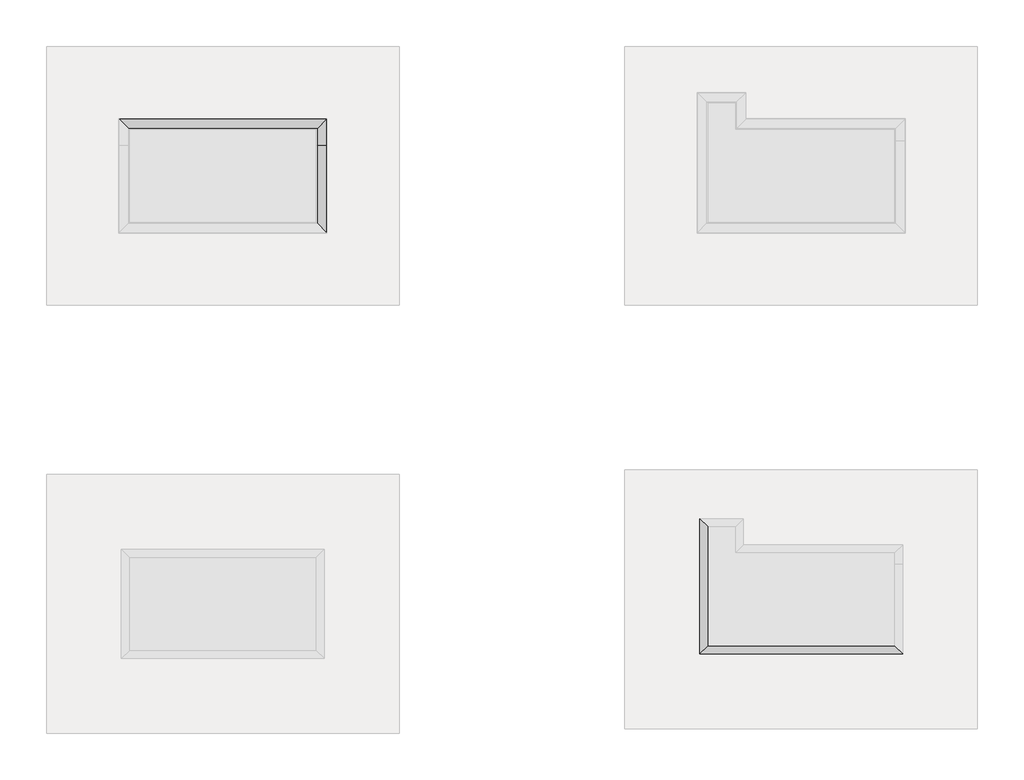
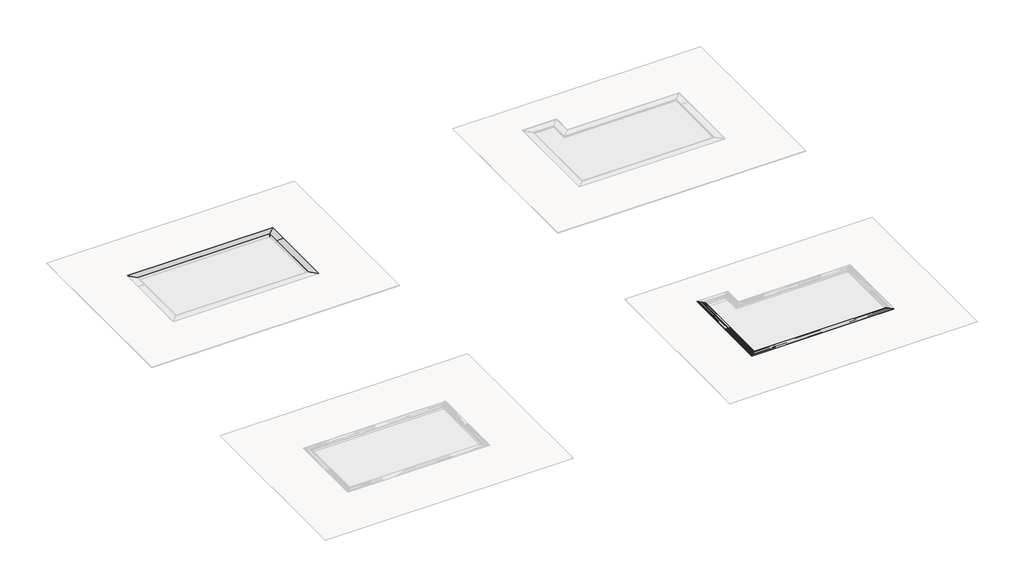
# One storey, part 5 of 8: 15 proxies.
"""IFC4 building model written with IfcOpenShell, lengths in millimetres."""

from ifc_helpers import new_model, si_unit, frame, origin, place, context, project, spatial, polyline, circle_curve, faceted_brep, transform, mapped, element, save
from ifc_brep_helpers import plane_surface, cylinder_surface, revolved_surface, advanced_brep
from components import generic_models_b0f7cce5, generic_models_9fc1b6fc, generic_models_75372383, generic_models_188eaae2, generic_models_80b3ed26, generic_models_b073b66c, generic_models_fa50347c, generic_models_227ff7f2

model = new_model("IFC4")

# Units and contexts
model_context = context("Model", 3, world=origin())
ifc_project = project(units=[si_unit("LENGTHUNIT", "METRE", prefix="MILLI")], contexts=[model_context])

# Site, building, storey
site = spatial("IfcSite", under=ifc_project)
building = spatial("IfcBuilding", under=site)
storey = spatial("IfcBuildingStorey", under=building, Name="EXAGRES_Serie YOHO_Piscinas_ejemplo", Elevation=0.0)

# Proxies
placement = place(None, origin())
element("IfcBuildingElementProxy", 1, Name="Wall Sweeps", at=placement, inside=storey, context=model_context, shape_type="Brep", body=[
    faceted_brep([(-13244.8495187, -3881.1586753, -200.0), (-13044.8495187, -4081.1586753, -200.0), (-12844.8495187, -4281.1586753, -200.0), (-12844.8495187, -4281.1586753, 0.0), (-13244.8495187, -3881.1586753, 0.0), (-4394.8495187, -3881.1586753, -200.0), (-4394.8495187, -3881.1586753, 0.0), (-4794.8495187, -4281.1586753, 0.0), (-4794.8495187, -4281.1586753, -200.0), (-4594.8495187, -4081.1586753, -200.0)], [[[0, 1, 2, 3, 4]], [[5, 6, 7, 8, 9]], [[3, 2, 8, 7]], [[2, 1, 0, 5, 9, 8]], [[4, 3, 7, 6]], [[0, 4, 6, 5]]]),
])
element("IfcBuildingElementProxy", 2, Name="Wall Sweeps", at=placement, inside=storey, context=model_context, shape_type="Brep", body=[
    faceted_brep([(-4394.8495187, -3881.1586753, -200.0), (-4594.8495187, -4081.1586753, -200.0), (-4794.8495187, -4281.1586753, -200.0), (-4794.8495187, -4281.1586753, 0.0), (-4394.8495187, -3881.1586753, 0.0), (-4394.8495187, -5006.1586753, -200.0), (-4394.8495187, -5006.1586753, 0.0), (-4794.8495187, -5006.1586753, 0.0), (-4794.8495187, -5006.1586753, -200.0), (-4594.8495187, -5006.1586753, -200.0)], [[[0, 1, 2, 3, 4]], [[5, 6, 7, 8, 9]], [[3, 2, 8, 7]], [[2, 1, 0, 5, 9, 8]], [[4, 3, 7, 6]], [[0, 4, 6, 5]]]),
])
element("IfcBuildingElementProxy", 3, Name="Wall Sweeps", at=placement, inside=storey, context=model_context, shape_type="Brep", body=[
    faceted_brep([(-4394.8495187, -5006.1586753, -200.0), (-4594.8495187, -5006.1586753, -200.0), (-4794.8495187, -5006.1586753, -200.0), (-4794.8495187, -5006.1586753, 0.0), (-4394.8495187, -5006.1586753, 0.0), (-4394.8495187, -8731.1586753, -200.0), (-4394.8495187, -8731.1586753, 0.0), (-4794.8495187, -8331.1586753, 0.0), (-4794.8495187, -8331.1586753, -200.0), (-4594.8495187, -8531.1586753, -200.0)], [[[0, 1, 2, 3, 4]], [[5, 6, 7, 8, 9]], [[2, 1, 0, 5, 9, 8]], [[3, 2, 8, 7]], [[4, 3, 7, 6]], [[0, 4, 6, 5]]]),
])
element("IfcBuildingElementProxy", 4, Name="Wall Sweeps", at=placement, inside=storey, context=model_context, shape_type="Brep", body=[
    faceted_brep([(19893.1504813, -26419.1586753, 0.0), (19880.1504813, -26406.1586753, 0.0), (19880.1504813, -26406.1586753, 33.0), (20210.1504813, -26736.1586753, 33.0), (20210.1504813, -26736.1586753, 21.0), (20204.1504813, -26730.1586753, 21.0), (20204.1504813, -26730.1586753, 22.0), (20200.1504813, -26726.1586753, 22.0), (20200.1504813, -26726.1586753, 21.0), (20194.1504813, -26720.1586753, 21.0), (20194.1504813, -26720.1586753, 22.0), (20190.1504813, -26716.1586753, 22.0), (20190.1504813, -26716.1586753, 21.0), (20184.1504813, -26710.1586753, 21.0), (20184.1504813, -26710.1586753, 22.0), (20180.1504813, -26706.1586753, 22.0), (20180.1504813, -26706.1586753, 21.0), (20174.1504813, -26700.1586753, 21.0), (20174.1504813, -26700.1586753, 22.0), (20170.1504813, -26696.1586753, 22.0), (20170.1504813, -26696.1586753, 21.0), (20164.1504813, -26690.1586753, 21.0), (20164.1504813, -26690.1586753, 22.0), (20160.1504813, -26686.1586753, 22.0), (20160.1504813, -26686.1586753, 21.0), (20154.1504813, -26680.1586753, 21.0), (20154.1504813, -26680.1586753, 22.0), (20150.1504813, -26676.1586753, 22.0), (20150.1504813, -26676.1586753, 21.0), (20144.1504813, -26670.1586753, 21.0), (20144.1504813, -26670.1586753, 22.0), (20140.1504813, -26666.1586753, 22.0), (20140.1504813, -26666.1586753, 21.0), (20134.1504813, -26660.1586753, 21.0), (20134.1504813, -26660.1586753, 22.0), (20130.1504813, -26656.1586753, 22.0), (20130.1504813, -26656.1586753, 21.0), (20124.1504813, -26650.1586753, 21.0), (20124.1504813, -26650.1586753, 22.0), (20120.1504813, -26646.1586753, 22.0), (20120.1504813, -26646.1586753, 21.0), (20114.1504813, -26640.1586753, 21.0), (20114.1504813, -26640.1586753, 22.0), (20110.1504813, -26636.1586753, 22.0), (20110.1504813, -26636.1586753, 21.0), (20104.1504813, -26630.1586753, 21.0), (20104.1504813, -26630.1586753, 22.0), (20100.1504813, -26626.1586753, 22.0), (20100.1504813, -26626.1586753, 21.0), (20094.1504813, -26620.1586753, 21.0), (20094.1504813, -26620.1586753, 22.0), (20090.1504813, -26616.1586753, 22.0), (20090.1504813, -26616.1586753, 21.0), (20084.1504813, -26610.1586753, 21.0), (20084.1504813, -26610.1586753, 22.0), (20080.1504813, -26606.1586753, 22.0), (20080.1504813, -26606.1586753, 21.0), (20074.1504813, -26600.1586753, 21.0), (20074.1504813, -26600.1586753, 22.0), (20070.1504813, -26596.1586753, 22.0), (20070.1504813, -26596.1586753, 21.0), (20064.1504813, -26590.1586753, 21.0), (20064.1504813, -26590.1586753, 22.0), (20060.1504813, -26586.1586753, 22.0), (20060.1504813, -26586.1586753, 21.0), (20054.1504813, -26580.1586753, 21.0), (20054.1504813, -26580.1586753, 22.0), (20050.1504813, -26576.1586753, 22.0), (20050.1504813, -26576.1586753, 21.0), (20044.1504813, -26570.1586753, 21.0), (20044.1504813, -26570.1586753, 22.0), (20040.1504813, -26566.1586753, 22.0), (20040.1504813, -26566.1586753, 21.0), (20034.1504813, -26560.1586753, 21.0), (20034.1504813, -26560.1586753, 22.0), (20030.1504813, -26556.1586753, 22.0), (20030.1504813, -26556.1586753, 21.0), (20024.1504813, -26550.1586753, 21.0), (20024.1504813, -26550.1586753, 22.0), (20020.1504813, -26546.1586753, 22.0), (20020.1504813, -26546.1586753, 21.0), (20014.1504813, -26540.1586753, 21.0), (20014.1504813, -26540.1586753, 22.0), (20010.1504813, -26536.1586753, 22.0), (20010.1504813, -26536.1586753, 21.0), (20004.1504813, -26530.1586753, 21.0), (20004.1504813, -26530.1586753, 22.0), (20000.1504813, -26526.1586753, 22.0), (20000.1504813, -26526.1586753, 21.0), (19994.1504813, -26520.1586753, 21.0), (19994.1504813, -26520.1586753, 22.0), (19990.1504813, -26516.1586753, 22.0), (19990.1504813, -26516.1586753, 21.0), (19984.1504813, -26510.1586753, 21.0), (19984.1504813, -26510.1586753, 22.0), (19980.1504813, -26506.1586753, 22.0), (19980.1504813, -26506.1586753, 21.0), (19974.1504813, -26500.1586753, 21.0), (19974.1504813, -26500.1586753, 22.0), (19970.1504813, -26496.1586753, 22.0), (19970.1504813, -26496.1586753, 21.0), (19964.1504813, -26490.1586753, 21.0), (19964.1504813, -26490.1586753, 22.0), (19960.1504813, -26486.1586753, 22.0), (19960.1504813, -26486.1586753, 21.0), (19954.1504813, -26480.1586753, 21.0), (19954.1504813, -26480.1586753, 22.0), (19950.1504813, -26476.1586753, 22.0), (19950.1504813, -26476.1586753, 21.0), (19944.1504813, -26470.1586753, 21.0), (19944.1504813, -26470.1586753, 22.0), (19940.1504813, -26466.1586753, 22.0), (19940.1504813, -26466.1586753, 21.0), (19934.1504813, -26460.1586753, 21.0), (19934.1504813, -26460.1586753, 22.0), (19930.1504813, -26456.1586753, 22.0), (19930.1504813, -26456.1586753, 21.0), (19924.1504813, -26450.1586753, 21.0), (19924.1504813, -26450.1586753, 22.0), (19920.1504813, -26446.1586753, 22.0), (19920.1504813, -26446.1586753, 21.0), (19914.1504813, -26440.1586753, 21.0), (19914.1504813, -26440.1586753, 22.0), (19910.1504813, -26436.1586753, 22.0), (19910.1504813, -26436.1586753, 21.0), (19904.1504813, -26430.1586753, 21.0), (19904.1504813, -26430.1586753, 22.0), (19900.1504813, -26426.1586753, 22.0), (19900.1504813, -26426.1586753, 21.0), (19893.1504813, -26419.1586753, 21.0), (19893.1504813, -26419.1586753, 14.0), (19892.1504813, -26418.1586753, 14.0), (19892.1504813, -26418.1586753, 8.0), (19893.1504813, -26419.1586753, 8.0), (11867.1504813, -26419.1586753, 0.0), (11867.1504813, -26419.1586753, 8.0), (11868.1504813, -26418.1586753, 8.0), (11868.1504813, -26418.1586753, 14.0), (11867.1504813, -26419.1586753, 14.0), (11867.1504813, -26419.1586753, 21.0), (11860.1504813, -26426.1586753, 21.0), (11860.1504813, -26426.1586753, 22.0), (11856.1504813, -26430.1586753, 22.0), (11856.1504813, -26430.1586753, 21.0), (11850.1504813, -26436.1586753, 21.0), (11850.1504813, -26436.1586753, 22.0), (11846.1504813, -26440.1586753, 22.0), (11846.1504813, -26440.1586753, 21.0), (11840.1504813, -26446.1586753, 21.0), (11840.1504813, -26446.1586753, 22.0), (11836.1504813, -26450.1586753, 22.0), (11836.1504813, -26450.1586753, 21.0), (11830.1504813, -26456.1586753, 21.0), (11830.1504813, -26456.1586753, 22.0), (11826.1504813, -26460.1586753, 22.0), (11826.1504813, -26460.1586753, 21.0), (11820.1504813, -26466.1586753, 21.0), (11820.1504813, -26466.1586753, 22.0), (11816.1504813, -26470.1586753, 22.0), (11816.1504813, -26470.1586753, 21.0), (11810.1504813, -26476.1586753, 21.0), (11810.1504813, -26476.1586753, 22.0), (11806.1504813, -26480.1586753, 22.0), (11806.1504813, -26480.1586753, 21.0), (11800.1504813, -26486.1586753, 21.0), (11800.1504813, -26486.1586753, 22.0), (11796.1504813, -26490.1586753, 22.0), (11796.1504813, -26490.1586753, 21.0), (11790.1504813, -26496.1586753, 21.0), (11790.1504813, -26496.1586753, 22.0), (11786.1504813, -26500.1586753, 22.0), (11786.1504813, -26500.1586753, 21.0), (11780.1504813, -26506.1586753, 21.0), (11780.1504813, -26506.1586753, 22.0), (11776.1504813, -26510.1586753, 22.0), (11776.1504813, -26510.1586753, 21.0), (11770.1504813, -26516.1586753, 21.0), (11770.1504813, -26516.1586753, 22.0), (11766.1504813, -26520.1586753, 22.0), (11766.1504813, -26520.1586753, 21.0), (11760.1504813, -26526.1586753, 21.0), (11760.1504813, -26526.1586753, 22.0), (11756.1504813, -26530.1586753, 22.0), (11756.1504813, -26530.1586753, 21.0), (11750.1504813, -26536.1586753, 21.0), (11750.1504813, -26536.1586753, 22.0), (11746.1504813, -26540.1586753, 22.0), (11746.1504813, -26540.1586753, 21.0), (11740.1504813, -26546.1586753, 21.0), (11740.1504813, -26546.1586753, 22.0), (11736.1504813, -26550.1586753, 22.0), (11736.1504813, -26550.1586753, 21.0), (11730.1504813, -26556.1586753, 21.0), (11730.1504813, -26556.1586753, 22.0), (11726.1504813, -26560.1586753, 22.0), (11726.1504813, -26560.1586753, 21.0), (11720.1504813, -26566.1586753, 21.0), (11720.1504813, -26566.1586753, 22.0), (11716.1504813, -26570.1586753, 22.0), (11716.1504813, -26570.1586753, 21.0), (11710.1504813, -26576.1586753, 21.0), (11710.1504813, -26576.1586753, 22.0), (11706.1504813, -26580.1586753, 22.0), (11706.1504813, -26580.1586753, 21.0), (11700.1504813, -26586.1586753, 21.0), (11700.1504813, -26586.1586753, 22.0), (11696.1504813, -26590.1586753, 22.0), (11696.1504813, -26590.1586753, 21.0), (11690.1504813, -26596.1586753, 21.0), (11690.1504813, -26596.1586753, 22.0), (11686.1504813, -26600.1586753, 22.0), (11686.1504813, -26600.1586753, 21.0), (11680.1504813, -26606.1586753, 21.0), (11680.1504813, -26606.1586753, 22.0), (11676.1504813, -26610.1586753, 22.0), (11676.1504813, -26610.1586753, 21.0), (11670.1504813, -26616.1586753, 21.0), (11670.1504813, -26616.1586753, 22.0), (11666.1504813, -26620.1586753, 22.0), (11666.1504813, -26620.1586753, 21.0), (11660.1504813, -26626.1586753, 21.0), (11660.1504813, -26626.1586753, 22.0), (11656.1504813, -26630.1586753, 22.0), (11656.1504813, -26630.1586753, 21.0), (11650.1504813, -26636.1586753, 21.0), (11650.1504813, -26636.1586753, 22.0), (11646.1504813, -26640.1586753, 22.0), (11646.1504813, -26640.1586753, 21.0), (11640.1504813, -26646.1586753, 21.0), (11640.1504813, -26646.1586753, 22.0), (11636.1504813, -26650.1586753, 22.0), (11636.1504813, -26650.1586753, 21.0), (11630.1504813, -26656.1586753, 21.0), (11630.1504813, -26656.1586753, 22.0), (11626.1504813, -26660.1586753, 22.0), (11626.1504813, -26660.1586753, 21.0), (11620.1504813, -26666.1586753, 21.0), (11620.1504813, -26666.1586753, 22.0), (11616.1504813, -26670.1586753, 22.0), (11616.1504813, -26670.1586753, 21.0), (11610.1504813, -26676.1586753, 21.0), (11610.1504813, -26676.1586753, 22.0), (11606.1504813, -26680.1586753, 22.0), (11606.1504813, -26680.1586753, 21.0), (11600.1504813, -26686.1586753, 21.0), (11600.1504813, -26686.1586753, 22.0), (11596.1504813, -26690.1586753, 22.0), (11596.1504813, -26690.1586753, 21.0), (11590.1504813, -26696.1586753, 21.0), (11590.1504813, -26696.1586753, 22.0), (11586.1504813, -26700.1586753, 22.0), (11586.1504813, -26700.1586753, 21.0), (11580.1504813, -26706.1586753, 21.0), (11580.1504813, -26706.1586753, 22.0), (11576.1504813, -26710.1586753, 22.0), (11576.1504813, -26710.1586753, 21.0), (11570.1504813, -26716.1586753, 21.0), (11570.1504813, -26716.1586753, 22.0), (11566.1504813, -26720.1586753, 22.0), (11566.1504813, -26720.1586753, 21.0), (11560.1504813, -26726.1586753, 21.0), (11560.1504813, -26726.1586753, 22.0), (11556.1504813, -26730.1586753, 22.0), (11556.1504813, -26730.1586753, 21.0), (11550.1504813, -26736.1586753, 21.0), (11550.1504813, -26736.1586753, 33.0), (11880.1504813, -26406.1586753, 33.0), (11880.1504813, -26406.1586753, 0.0)], [[[0, 1, 2, 3, 4, 5, 6, 7, 8, 9, 10, 11, 12, 13, 14, 15, 16, 17, 18, 19, 20, 21, 22, 23, 24, 25, 26, 27, 28, 29, 30, 31, 32, 33, 34, 35, 36, 37, 38, 39, 40, 41, 42, 43, 44, 45, 46, 47, 48, 49, 50, 51, 52, 53, 54, 55, 56, 57, 58, 59, 60, 61, 62, 63, 64, 65, 66, 67, 68, 69, 70, 71, 72, 73, 74, 75, 76, 77, 78, 79, 80, 81, 82, 83, 84, 85, 86, 87, 88, 89, 90, 91, 92, 93, 94, 95, 96, 97, 98, 99, 100, 101, 102, 103, 104, 105, 106, 107, 108, 109, 110, 111, 112, 113, 114, 115, 116, 117, 118, 119, 120, 121, 122, 123, 124, 125, 126, 127, 128, 129, 130, 131, 132, 133]], [[134, 135, 136, 137, 138, 139, 140, 141, 142, 143, 144, 145, 146, 147, 148, 149, 150, 151, 152, 153, 154, 155, 156, 157, 158, 159, 160, 161, 162, 163, 164, 165, 166, 167, 168, 169, 170, 171, 172, 173, 174, 175, 176, 177, 178, 179, 180, 181, 182, 183, 184, 185, 186, 187, 188, 189, 190, 191, 192, 193, 194, 195, 196, 197, 198, 199, 200, 201, 202, 203, 204, 205, 206, 207, 208, 209, 210, 211, 212, 213, 214, 215, 216, 217, 218, 219, 220, 221, 222, 223, 224, 225, 226, 227, 228, 229, 230, 231, 232, 233, 234, 235, 236, 237, 238, 239, 240, 241, 242, 243, 244, 245, 246, 247, 248, 249, 250, 251, 252, 253, 254, 255, 256, 257, 258, 259, 260, 261, 262, 263, 264, 265, 266, 267]], [[1, 0, 134, 267]], [[2, 1, 267, 266]], [[3, 2, 266, 265]], [[4, 3, 265, 264]], [[5, 4, 264, 263]], [[6, 5, 263, 262]], [[7, 6, 262, 261]], [[8, 7, 261, 260]], [[9, 8, 260, 259]], [[10, 9, 259, 258]], [[11, 10, 258, 257]], [[12, 11, 257, 256]], [[13, 12, 256, 255]], [[14, 13, 255, 254]], [[15, 14, 254, 253]], [[16, 15, 253, 252]], [[17, 16, 252, 251]], [[18, 17, 251, 250]], [[19, 18, 250, 249]], [[20, 19, 249, 248]], [[21, 20, 248, 247]], [[22, 21, 247, 246]], [[23, 22, 246, 245]], [[24, 23, 245, 244]], [[25, 24, 244, 243]], [[26, 25, 243, 242]], [[27, 26, 242, 241]], [[28, 27, 241, 240]], [[29, 28, 240, 239]], [[30, 29, 239, 238]], [[31, 30, 238, 237]], [[32, 31, 237, 236]], [[33, 32, 236, 235]], [[34, 33, 235, 234]], [[35, 34, 234, 233]], [[36, 35, 233, 232]], [[37, 36, 232, 231]], [[38, 37, 231, 230]], [[39, 38, 230, 229]], [[40, 39, 229, 228]], [[41, 40, 228, 227]], [[42, 41, 227, 226]], [[43, 42, 226, 225]], [[44, 43, 225, 224]], [[45, 44, 224, 223]], [[46, 45, 223, 222]], [[47, 46, 222, 221]], [[48, 47, 221, 220]], [[49, 48, 220, 219]], [[50, 49, 219, 218]], [[51, 50, 218, 217]], [[52, 51, 217, 216]], [[53, 52, 216, 215]], [[54, 53, 215, 214]], [[55, 54, 214, 213]], [[56, 55, 213, 212]], [[57, 56, 212, 211]], [[58, 57, 211, 210]], [[59, 58, 210, 209]], [[60, 59, 209, 208]], [[61, 60, 208, 207]], [[62, 61, 207, 206]], [[63, 62, 206, 205]], [[64, 63, 205, 204]], [[65, 64, 204, 203]], [[66, 65, 203, 202]], [[67, 66, 202, 201]], [[68, 67, 201, 200]], [[69, 68, 200, 199]], [[70, 69, 199, 198]], [[71, 70, 198, 197]], [[72, 71, 197, 196]], [[73, 72, 196, 195]], [[74, 73, 195, 194]], [[75, 74, 194, 193]], [[76, 75, 193, 192]], [[77, 76, 192, 191]], [[78, 77, 191, 190]], [[79, 78, 190, 189]], [[80, 79, 189, 188]], [[81, 80, 188, 187]], [[82, 81, 187, 186]], [[83, 82, 186, 185]], [[84, 83, 185, 184]], [[85, 84, 184, 183]], [[86, 85, 183, 182]], [[87, 86, 182, 181]], [[88, 87, 181, 180]], [[89, 88, 180, 179]], [[90, 89, 179, 178]], [[91, 90, 178, 177]], [[92, 91, 177, 176]], [[93, 92, 176, 175]], [[94, 93, 175, 174]], [[95, 94, 174, 173]], [[96, 95, 173, 172]], [[97, 96, 172, 171]], [[98, 97, 171, 170]], [[99, 98, 170, 169]], [[100, 99, 169, 168]], [[101, 100, 168, 167]], [[102, 101, 167, 166]], [[103, 102, 166, 165]], [[104, 103, 165, 164]], [[105, 104, 164, 163]], [[106, 105, 163, 162]], [[107, 106, 162, 161]], [[108, 107, 161, 160]], [[109, 108, 160, 159]], [[110, 109, 159, 158]], [[111, 110, 158, 157]], [[112, 111, 157, 156]], [[113, 112, 156, 155]], [[114, 113, 155, 154]], [[115, 114, 154, 153]], [[116, 115, 153, 152]], [[117, 116, 152, 151]], [[118, 117, 151, 150]], [[119, 118, 150, 149]], [[120, 119, 149, 148]], [[121, 120, 148, 147]], [[122, 121, 147, 146]], [[123, 122, 146, 145]], [[124, 123, 145, 144]], [[125, 124, 144, 143]], [[126, 125, 143, 142]], [[127, 126, 142, 141]], [[128, 127, 141, 140]], [[129, 128, 140, 139]], [[130, 129, 139, 138]], [[131, 130, 138, 137]], [[132, 131, 137, 136]], [[133, 132, 136, 135]], [[0, 133, 135, 134]]]),
])
element("IfcBuildingElementProxy", 5, Name="Wall Sweeps", at=placement, inside=storey, context=model_context, shape_type="Brep", body=[
    faceted_brep([(20200.1504813, -26726.1586753, -181.26), (19895.1504813, -26421.1586753, -181.26), (19895.1504813, -26421.1586753, 18.74), (20200.1504813, -26726.1586753, 18.74), (11560.1504813, -26726.1586753, -181.26), (11560.1504813, -26726.1586753, 18.74), (11865.1504813, -26421.1586753, 18.74), (11865.1504813, -26421.1586753, 0.0), (11865.1504813, -26421.1586753, -181.26), (11655.1504813, -26631.1586753, -181.26)], [[[0, 1, 2, 3]], [[4, 5, 6, 7, 8, 9]], [[2, 1, 8, 7, 6]], [[1, 0, 4, 9, 8]], [[3, 2, 6, 5]], [[0, 3, 5, 4]]]),
])
element("IfcBuildingElementProxy", 6, Name="Wall Sweeps", at=placement, inside=storey, context=model_context, shape_type="Brep", body=[
    faceted_brep([(11867.1504813, -26419.1586753, 0.0), (11880.1504813, -26406.1586753, 0.0), (11880.1504813, -26406.1586753, 33.0), (11550.1504813, -26736.1586753, 33.0), (11550.1504813, -26736.1586753, 21.0), (11556.1504813, -26730.1586753, 21.0), (11556.1504813, -26730.1586753, 22.0), (11560.1504813, -26726.1586753, 22.0), (11560.1504813, -26726.1586753, 21.0), (11566.1504813, -26720.1586753, 21.0), (11566.1504813, -26720.1586753, 22.0), (11570.1504813, -26716.1586753, 22.0), (11570.1504813, -26716.1586753, 21.0), (11576.1504813, -26710.1586753, 21.0), (11576.1504813, -26710.1586753, 22.0), (11580.1504813, -26706.1586753, 22.0), (11580.1504813, -26706.1586753, 21.0), (11586.1504813, -26700.1586753, 21.0), (11586.1504813, -26700.1586753, 22.0), (11590.1504813, -26696.1586753, 22.0), (11590.1504813, -26696.1586753, 21.0), (11596.1504813, -26690.1586753, 21.0), (11596.1504813, -26690.1586753, 22.0), (11600.1504813, -26686.1586753, 22.0), (11600.1504813, -26686.1586753, 21.0), (11606.1504813, -26680.1586753, 21.0), (11606.1504813, -26680.1586753, 22.0), (11610.1504813, -26676.1586753, 22.0), (11610.1504813, -26676.1586753, 21.0), (11616.1504813, -26670.1586753, 21.0), (11616.1504813, -26670.1586753, 22.0), (11620.1504813, -26666.1586753, 22.0), (11620.1504813, -26666.1586753, 21.0), (11626.1504813, -26660.1586753, 21.0), (11626.1504813, -26660.1586753, 22.0), (11630.1504813, -26656.1586753, 22.0), (11630.1504813, -26656.1586753, 21.0), (11636.1504813, -26650.1586753, 21.0), (11636.1504813, -26650.1586753, 22.0), (11640.1504813, -26646.1586753, 22.0), (11640.1504813, -26646.1586753, 21.0), (11646.1504813, -26640.1586753, 21.0), (11646.1504813, -26640.1586753, 22.0), (11650.1504813, -26636.1586753, 22.0), (11650.1504813, -26636.1586753, 21.0), (11656.1504813, -26630.1586753, 21.0), (11656.1504813, -26630.1586753, 22.0), (11660.1504813, -26626.1586753, 22.0), (11660.1504813, -26626.1586753, 21.0), (11666.1504813, -26620.1586753, 21.0), (11666.1504813, -26620.1586753, 22.0), (11670.1504813, -26616.1586753, 22.0), (11670.1504813, -26616.1586753, 21.0), (11676.1504813, -26610.1586753, 21.0), (11676.1504813, -26610.1586753, 22.0), (11680.1504813, -26606.1586753, 22.0), (11680.1504813, -26606.1586753, 21.0), (11686.1504813, -26600.1586753, 21.0), (11686.1504813, -26600.1586753, 22.0), (11690.1504813, -26596.1586753, 22.0), (11690.1504813, -26596.1586753, 21.0), (11696.1504813, -26590.1586753, 21.0), (11696.1504813, -26590.1586753, 22.0), (11700.1504813, -26586.1586753, 22.0), (11700.1504813, -26586.1586753, 21.0), (11706.1504813, -26580.1586753, 21.0), (11706.1504813, -26580.1586753, 22.0), (11710.1504813, -26576.1586753, 22.0), (11710.1504813, -26576.1586753, 21.0), (11716.1504813, -26570.1586753, 21.0), (11716.1504813, -26570.1586753, 22.0), (11720.1504813, -26566.1586753, 22.0), (11720.1504813, -26566.1586753, 21.0), (11726.1504813, -26560.1586753, 21.0), (11726.1504813, -26560.1586753, 22.0), (11730.1504813, -26556.1586753, 22.0), (11730.1504813, -26556.1586753, 21.0), (11736.1504813, -26550.1586753, 21.0), (11736.1504813, -26550.1586753, 22.0), (11740.1504813, -26546.1586753, 22.0), (11740.1504813, -26546.1586753, 21.0), (11746.1504813, -26540.1586753, 21.0), (11746.1504813, -26540.1586753, 22.0), (11750.1504813, -26536.1586753, 22.0), (11750.1504813, -26536.1586753, 21.0), (11756.1504813, -26530.1586753, 21.0), (11756.1504813, -26530.1586753, 22.0), (11760.1504813, -26526.1586753, 22.0), (11760.1504813, -26526.1586753, 21.0), (11766.1504813, -26520.1586753, 21.0), (11766.1504813, -26520.1586753, 22.0), (11770.1504813, -26516.1586753, 22.0), (11770.1504813, -26516.1586753, 21.0), (11776.1504813, -26510.1586753, 21.0), (11776.1504813, -26510.1586753, 22.0), (11780.1504813, -26506.1586753, 22.0), (11780.1504813, -26506.1586753, 21.0), (11786.1504813, -26500.1586753, 21.0), (11786.1504813, -26500.1586753, 22.0), (11790.1504813, -26496.1586753, 22.0), (11790.1504813, -26496.1586753, 21.0), (11796.1504813, -26490.1586753, 21.0), (11796.1504813, -26490.1586753, 22.0), (11800.1504813, -26486.1586753, 22.0), (11800.1504813, -26486.1586753, 21.0), (11806.1504813, -26480.1586753, 21.0), (11806.1504813, -26480.1586753, 22.0), (11810.1504813, -26476.1586753, 22.0), (11810.1504813, -26476.1586753, 21.0), (11816.1504813, -26470.1586753, 21.0), (11816.1504813, -26470.1586753, 22.0), (11820.1504813, -26466.1586753, 22.0), (11820.1504813, -26466.1586753, 21.0), (11826.1504813, -26460.1586753, 21.0), (11826.1504813, -26460.1586753, 22.0), (11830.1504813, -26456.1586753, 22.0), (11830.1504813, -26456.1586753, 21.0), (11836.1504813, -26450.1586753, 21.0), (11836.1504813, -26450.1586753, 22.0), (11840.1504813, -26446.1586753, 22.0), (11840.1504813, -26446.1586753, 21.0), (11846.1504813, -26440.1586753, 21.0), (11846.1504813, -26440.1586753, 22.0), (11850.1504813, -26436.1586753, 22.0), (11850.1504813, -26436.1586753, 21.0), (11856.1504813, -26430.1586753, 21.0), (11856.1504813, -26430.1586753, 22.0), (11860.1504813, -26426.1586753, 22.0), (11860.1504813, -26426.1586753, 21.0), (11867.1504813, -26419.1586753, 21.0), (11867.1504813, -26419.1586753, 14.0), (11868.1504813, -26418.1586753, 14.0), (11868.1504813, -26418.1586753, 8.0), (11867.1504813, -26419.1586753, 8.0), (11867.1504813, -21273.1586753, 0.0), (11867.1504813, -21273.1586753, 8.0), (11868.1504813, -21274.1586753, 8.0), (11868.1504813, -21274.1586753, 14.0), (11867.1504813, -21273.1586753, 14.0), (11867.1504813, -21273.1586753, 21.0), (11860.1504813, -21266.1586753, 21.0), (11860.1504813, -21266.1586753, 22.0), (11856.1504813, -21262.1586753, 22.0), (11856.1504813, -21262.1586753, 21.0), (11850.1504813, -21256.1586753, 21.0), (11850.1504813, -21256.1586753, 22.0), (11846.1504813, -21252.1586753, 22.0), (11846.1504813, -21252.1586753, 21.0), (11840.1504813, -21246.1586753, 21.0), (11840.1504813, -21246.1586753, 22.0), (11836.1504813, -21242.1586753, 22.0), (11836.1504813, -21242.1586753, 21.0), (11830.1504813, -21236.1586753, 21.0), (11830.1504813, -21236.1586753, 22.0), (11826.1504813, -21232.1586753, 22.0), (11826.1504813, -21232.1586753, 21.0), (11820.1504813, -21226.1586753, 21.0), (11820.1504813, -21226.1586753, 22.0), (11816.1504813, -21222.1586753, 22.0), (11816.1504813, -21222.1586753, 21.0), (11810.1504813, -21216.1586753, 21.0), (11810.1504813, -21216.1586753, 22.0), (11806.1504813, -21212.1586753, 22.0), (11806.1504813, -21212.1586753, 21.0), (11800.1504813, -21206.1586753, 21.0), (11800.1504813, -21206.1586753, 22.0), (11796.1504813, -21202.1586753, 22.0), (11796.1504813, -21202.1586753, 21.0), (11790.1504813, -21196.1586753, 21.0), (11790.1504813, -21196.1586753, 22.0), (11786.1504813, -21192.1586753, 22.0), (11786.1504813, -21192.1586753, 21.0), (11780.1504813, -21186.1586753, 21.0), (11780.1504813, -21186.1586753, 22.0), (11776.1504813, -21182.1586753, 22.0), (11776.1504813, -21182.1586753, 21.0), (11770.1504813, -21176.1586753, 21.0), (11770.1504813, -21176.1586753, 22.0), (11766.1504813, -21172.1586753, 22.0), (11766.1504813, -21172.1586753, 21.0), (11760.1504813, -21166.1586753, 21.0), (11760.1504813, -21166.1586753, 22.0), (11756.1504813, -21162.1586753, 22.0), (11756.1504813, -21162.1586753, 21.0), (11750.1504813, -21156.1586753, 21.0), (11750.1504813, -21156.1586753, 22.0), (11746.1504813, -21152.1586753, 22.0), (11746.1504813, -21152.1586753, 21.0), (11740.1504813, -21146.1586753, 21.0), (11740.1504813, -21146.1586753, 22.0), (11736.1504813, -21142.1586753, 22.0), (11736.1504813, -21142.1586753, 21.0), (11730.1504813, -21136.1586753, 21.0), (11730.1504813, -21136.1586753, 22.0), (11726.1504813, -21132.1586753, 22.0), (11726.1504813, -21132.1586753, 21.0), (11720.1504813, -21126.1586753, 21.0), (11720.1504813, -21126.1586753, 22.0), (11716.1504813, -21122.1586753, 22.0), (11716.1504813, -21122.1586753, 21.0), (11710.1504813, -21116.1586753, 21.0), (11710.1504813, -21116.1586753, 22.0), (11706.1504813, -21112.1586753, 22.0), (11706.1504813, -21112.1586753, 21.0), (11700.1504813, -21106.1586753, 21.0), (11700.1504813, -21106.1586753, 22.0), (11696.1504813, -21102.1586753, 22.0), (11696.1504813, -21102.1586753, 21.0), (11690.1504813, -21096.1586753, 21.0), (11690.1504813, -21096.1586753, 22.0), (11686.1504813, -21092.1586753, 22.0), (11686.1504813, -21092.1586753, 21.0), (11680.1504813, -21086.1586753, 21.0), (11680.1504813, -21086.1586753, 22.0), (11676.1504813, -21082.1586753, 22.0), (11676.1504813, -21082.1586753, 21.0), (11670.1504813, -21076.1586753, 21.0), (11670.1504813, -21076.1586753, 22.0), (11666.1504813, -21072.1586753, 22.0), (11666.1504813, -21072.1586753, 21.0), (11660.1504813, -21066.1586753, 21.0), (11660.1504813, -21066.1586753, 22.0), (11656.1504813, -21062.1586753, 22.0), (11656.1504813, -21062.1586753, 21.0), (11650.1504813, -21056.1586753, 21.0), (11650.1504813, -21056.1586753, 22.0), (11646.1504813, -21052.1586753, 22.0), (11646.1504813, -21052.1586753, 21.0), (11640.1504813, -21046.1586753, 21.0), (11640.1504813, -21046.1586753, 22.0), (11636.1504813, -21042.1586753, 22.0), (11636.1504813, -21042.1586753, 21.0), (11630.1504813, -21036.1586753, 21.0), (11630.1504813, -21036.1586753, 22.0), (11626.1504813, -21032.1586753, 22.0), (11626.1504813, -21032.1586753, 21.0), (11620.1504813, -21026.1586753, 21.0), (11620.1504813, -21026.1586753, 22.0), (11616.1504813, -21022.1586753, 22.0), (11616.1504813, -21022.1586753, 21.0), (11610.1504813, -21016.1586753, 21.0), (11610.1504813, -21016.1586753, 22.0), (11606.1504813, -21012.1586753, 22.0), (11606.1504813, -21012.1586753, 21.0), (11600.1504813, -21006.1586753, 21.0), (11600.1504813, -21006.1586753, 22.0), (11596.1504813, -21002.1586753, 22.0), (11596.1504813, -21002.1586753, 21.0), (11590.1504813, -20996.1586753, 21.0), (11590.1504813, -20996.1586753, 22.0), (11586.1504813, -20992.1586753, 22.0), (11586.1504813, -20992.1586753, 21.0), (11580.1504813, -20986.1586753, 21.0), (11580.1504813, -20986.1586753, 22.0), (11576.1504813, -20982.1586753, 22.0), (11576.1504813, -20982.1586753, 21.0), (11570.1504813, -20976.1586753, 21.0), (11570.1504813, -20976.1586753, 22.0), (11566.1504813, -20972.1586753, 22.0), (11566.1504813, -20972.1586753, 21.0), (11560.1504813, -20966.1586753, 21.0), (11560.1504813, -20966.1586753, 22.0), (11556.1504813, -20962.1586753, 22.0), (11556.1504813, -20962.1586753, 21.0), (11550.1504813, -20956.1586753, 21.0), (11550.1504813, -20956.1586753, 33.0), (11880.1504813, -21286.1586753, 33.0), (11880.1504813, -21286.1586753, 0.0)], [[[0, 1, 2, 3, 4, 5, 6, 7, 8, 9, 10, 11, 12, 13, 14, 15, 16, 17, 18, 19, 20, 21, 22, 23, 24, 25, 26, 27, 28, 29, 30, 31, 32, 33, 34, 35, 36, 37, 38, 39, 40, 41, 42, 43, 44, 45, 46, 47, 48, 49, 50, 51, 52, 53, 54, 55, 56, 57, 58, 59, 60, 61, 62, 63, 64, 65, 66, 67, 68, 69, 70, 71, 72, 73, 74, 75, 76, 77, 78, 79, 80, 81, 82, 83, 84, 85, 86, 87, 88, 89, 90, 91, 92, 93, 94, 95, 96, 97, 98, 99, 100, 101, 102, 103, 104, 105, 106, 107, 108, 109, 110, 111, 112, 113, 114, 115, 116, 117, 118, 119, 120, 121, 122, 123, 124, 125, 126, 127, 128, 129, 130, 131, 132, 133]], [[134, 135, 136, 137, 138, 139, 140, 141, 142, 143, 144, 145, 146, 147, 148, 149, 150, 151, 152, 153, 154, 155, 156, 157, 158, 159, 160, 161, 162, 163, 164, 165, 166, 167, 168, 169, 170, 171, 172, 173, 174, 175, 176, 177, 178, 179, 180, 181, 182, 183, 184, 185, 186, 187, 188, 189, 190, 191, 192, 193, 194, 195, 196, 197, 198, 199, 200, 201, 202, 203, 204, 205, 206, 207, 208, 209, 210, 211, 212, 213, 214, 215, 216, 217, 218, 219, 220, 221, 222, 223, 224, 225, 226, 227, 228, 229, 230, 231, 232, 233, 234, 235, 236, 237, 238, 239, 240, 241, 242, 243, 244, 245, 246, 247, 248, 249, 250, 251, 252, 253, 254, 255, 256, 257, 258, 259, 260, 261, 262, 263, 264, 265, 266, 267]], [[1, 0, 134, 267]], [[2, 1, 267, 266]], [[3, 2, 266, 265]], [[4, 3, 265, 264]], [[5, 4, 264, 263]], [[6, 5, 263, 262]], [[7, 6, 262, 261]], [[8, 7, 261, 260]], [[9, 8, 260, 259]], [[10, 9, 259, 258]], [[11, 10, 258, 257]], [[12, 11, 257, 256]], [[13, 12, 256, 255]], [[14, 13, 255, 254]], [[15, 14, 254, 253]], [[16, 15, 253, 252]], [[17, 16, 252, 251]], [[18, 17, 251, 250]], [[19, 18, 250, 249]], [[20, 19, 249, 248]], [[21, 20, 248, 247]], [[22, 21, 247, 246]], [[23, 22, 246, 245]], [[24, 23, 245, 244]], [[25, 24, 244, 243]], [[26, 25, 243, 242]], [[27, 26, 242, 241]], [[28, 27, 241, 240]], [[29, 28, 240, 239]], [[30, 29, 239, 238]], [[31, 30, 238, 237]], [[32, 31, 237, 236]], [[33, 32, 236, 235]], [[34, 33, 235, 234]], [[35, 34, 234, 233]], [[36, 35, 233, 232]], [[37, 36, 232, 231]], [[38, 37, 231, 230]], [[39, 38, 230, 229]], [[40, 39, 229, 228]], [[41, 40, 228, 227]], [[42, 41, 227, 226]], [[43, 42, 226, 225]], [[44, 43, 225, 224]], [[45, 44, 224, 223]], [[46, 45, 223, 222]], [[47, 46, 222, 221]], [[48, 47, 221, 220]], [[49, 48, 220, 219]], [[50, 49, 219, 218]], [[51, 50, 218, 217]], [[52, 51, 217, 216]], [[53, 52, 216, 215]], [[54, 53, 215, 214]], [[55, 54, 214, 213]], [[56, 55, 213, 212]], [[57, 56, 212, 211]], [[58, 57, 211, 210]], [[59, 58, 210, 209]], [[60, 59, 209, 208]], [[61, 60, 208, 207]], [[62, 61, 207, 206]], [[63, 62, 206, 205]], [[64, 63, 205, 204]], [[65, 64, 204, 203]], [[66, 65, 203, 202]], [[67, 66, 202, 201]], [[68, 67, 201, 200]], [[69, 68, 200, 199]], [[70, 69, 199, 198]], [[71, 70, 198, 197]], [[72, 71, 197, 196]], [[73, 72, 196, 195]], [[74, 73, 195, 194]], [[75, 74, 194, 193]], [[76, 75, 193, 192]], [[77, 76, 192, 191]], [[78, 77, 191, 190]], [[79, 78, 190, 189]], [[80, 79, 189, 188]], [[81, 80, 188, 187]], [[82, 81, 187, 186]], [[83, 82, 186, 185]], [[84, 83, 185, 184]], [[85, 84, 184, 183]], [[86, 85, 183, 182]], [[87, 86, 182, 181]], [[88, 87, 181, 180]], [[89, 88, 180, 179]], [[90, 89, 179, 178]], [[91, 90, 178, 177]], [[92, 91, 177, 176]], [[93, 92, 176, 175]], [[94, 93, 175, 174]], [[95, 94, 174, 173]], [[96, 95, 173, 172]], [[97, 96, 172, 171]], [[98, 97, 171, 170]], [[99, 98, 170, 169]], [[100, 99, 169, 168]], [[101, 100, 168, 167]], [[102, 101, 167, 166]], [[103, 102, 166, 165]], [[104, 103, 165, 164]], [[105, 104, 164, 163]], [[106, 105, 163, 162]], [[107, 106, 162, 161]], [[108, 107, 161, 160]], [[109, 108, 160, 159]], [[110, 109, 159, 158]], [[111, 110, 158, 157]], [[112, 111, 157, 156]], [[113, 112, 156, 155]], [[114, 113, 155, 154]], [[115, 114, 154, 153]], [[116, 115, 153, 152]], [[117, 116, 152, 151]], [[118, 117, 151, 150]], [[119, 118, 150, 149]], [[120, 119, 149, 148]], [[121, 120, 148, 147]], [[122, 121, 147, 146]], [[123, 122, 146, 145]], [[124, 123, 145, 144]], [[125, 124, 144, 143]], [[126, 125, 143, 142]], [[127, 126, 142, 141]], [[128, 127, 141, 140]], [[129, 128, 140, 139]], [[130, 129, 139, 138]], [[131, 130, 138, 137]], [[132, 131, 137, 136]], [[133, 132, 136, 135]], [[0, 133, 135, 134]]]),
])
element("IfcBuildingElementProxy", 7, Name="Wall Sweeps", at=placement, inside=storey, context=model_context, shape_type="AdvancedBrep", body=[
    advanced_brep(
    [(11865.1504813, -26421.1586753, -181.26), (11865.1504813, -26421.1586753, 0.0), (11865.1504813, -26421.1586753, 18.74), (11560.1504813, -26726.1586753, 18.74), (11560.1504813, -26726.1586753, -181.26), (11655.1504813, -26631.1586753, -181.26), (11865.1504813, -21271.1586753, -181.26), (11655.1504813, -21061.1586753, -181.26), (11560.1504813, -20966.1586753, -181.26), (11560.1504813, -20966.1586753, 18.74), (11865.1504813, -21271.1586753, 18.74), (11865.1504813, -21271.1586753, 0.0), (11865.1504813, -21271.1586753, -100.0), (11855.1504813, -21261.1586753, -100.0), (11855.1504813, -21261.1586753, -109.0), (11865.1504813, -21271.1586753, -109.0), (11865.1504813, -21502.2586753, -109.0), (11865.1504813, -21502.2586753, -106.4), (11865.1504813, -21519.7586753, -123.9), (11865.1504813, -21526.1586753, -123.9), (11865.1504813, -21502.2586753, -100.0), (11855.1504813, -21502.2586753, -109.0), (11855.1504813, -21502.2586753, -100.0), (11855.1504813, -21526.1586753, -123.9), (11855.1504813, -21519.7586753, -123.9), (11855.1504813, -21502.2586753, -106.4)],
    [
        (0, 1),
        (1, 2),
        (2, 3),
        (3, 4),
        (4, 5),
        (5, 0),
        (6, 7),
        (7, 8),
        (8, 9),
        (9, 10),
        (10, 11),
        (11, 12),
        (12, 13),
        (13, 14),
        (14, 15),
        (15, 6),
        (0, 6),
        (15, 16),
        (16, 17),
        (17, 18, circle_curve(frame((11865.1504813, -21502.2586753, -123.9), z_axis=(1.0, 0.0, 0.0), x_axis=(0.0, 1.0, 0.0)), 17.5)),
        (18, 19),
        (19, 20, circle_curve(frame((11865.1504813, -21502.2586753, -123.9), z_axis=(-1.0, 0.0, 0.0), x_axis=(0.0, 1.0, 0.0)), 23.9)),
        (20, 12),
        (10, 2),
        (4, 8),
        (9, 3),
        (14, 21),
        (21, 16),
        (22, 13),
        (20, 22),
        (22, 23, circle_curve(frame((11855.1504813, -21502.2586753, -123.9), z_axis=(1.0, 0.0, 0.0), x_axis=(0.0, 1.0, 0.0)), 23.9)),
        (23, 24),
        (24, 25, circle_curve(frame((11855.1504813, -21502.2586753, -123.9), z_axis=(-1.0, 0.0, 0.0), x_axis=(0.0, 1.0, 0.0)), 17.5)),
        (25, 21),
        (25, 17),
        (19, 23),
        (24, 18),
    ],
    [
        plane_surface(frame((11880.1504813, -26406.1586753, 304.8), z_axis=(0.7071067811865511, -0.707106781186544, 0.0), x_axis=(0.707106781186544, 0.7071067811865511, 0.0))),
        plane_surface(frame((11880.1504813, -21286.1586753, 304.8), z_axis=(0.7071067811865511, 0.707106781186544, 0.0), x_axis=(0.707106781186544, -0.7071067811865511, 0.0))),
        plane_surface(frame((11865.1504813, -26421.1586753, -181.26), z_axis=(1.0, 0.0, 0.0), x_axis=(0.0, 1.0, 0.0))),
        plane_surface(frame((11560.1504813, -26726.1586753, -181.26), z_axis=(0.0, 0.0, -1.0), x_axis=(0.0, 1.0, 0.0))),
        plane_surface(frame((11865.1504813, -26421.1586753, 18.74), z_axis=(0.0, 0.0, 1.0), x_axis=(0.0, 1.0, 0.0))),
        plane_surface(frame((11560.1504813, -26726.1586753, 18.74), z_axis=(-1.0, 0.0, 0.0), x_axis=(0.0, 1.0, 0.0))),
        plane_surface(frame((13105.1504813, -2799.4052265, -109.0), z_axis=(0.0, 0.0, 1.0), x_axis=(0.0, -1.0, 0.0))),
        plane_surface(frame((13105.1504813, -2799.4052265, -100.0), z_axis=(0.0, 0.0, -1.0), x_axis=(0.0, 1.0, 0.0))),
        plane_surface(frame((11855.1504813, -21526.1586753, -109.0), z_axis=(1.0, 0.0, 0.0), x_axis=(0.0, 0.0, 1.0))),
        plane_surface(frame((11855.1504813, -21502.2586753, -100.0), z_axis=(0.0, 1.0, 0.0), x_axis=(1.0, 0.0, 0.0))),
        revolved_surface(polyline([(11855.1504813, -21478.358675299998, -123.9), (11865.1504813, -21478.358675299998, -123.9)]), (11855.1504813, -21502.2586753, -123.9), (-1.0, 0.0, 0.0)),
        cylinder_surface(frame((11855.1504813, -21502.2586753, -123.9), z_axis=(1.0, 0.0, 0.0), x_axis=(0.0, 1.0, 0.0)), 17.5),
        plane_surface(frame((11855.1504813, -21519.7586753, -123.9), z_axis=(0.0, 0.0, 1.0), x_axis=(1.0, 0.0, 0.0))),
    ],
    [
        (0, [[1, 2, 3, 4, 5, 6]]),
        (1, [[7, 8, 9, 10, 11, 12, 13, 14, 15, 16]]),
        (2, [[-2, -1, 17, -16, 18, 19, 20, 21, 22, 23, -12, -11, 24]]),
        (3, [[-6, -5, 25, -8, -7, -17]]),
        (4, [[-3, -24, -10, 26]]),
        (5, [[-4, -26, -9, -25]]),
        (6, [[27, 28, -18, -15]]),
        (7, [[29, -13, -23, 30]]),
        (8, [[-27, -14, -29, 31, 32, 33, 34]]),
        (9, [[-28, -34, 35, -19]]),
        (10, [[-31, -30, -22, 36]]),
        (11, [[-33, 37, -20, -35]]),
        (12, [[-32, -36, -21, -37]]),
    ],
),
])
generic_models_shape = generic_models_b0f7cce5(model_context)
element("IfcBuildingElementProxy", 8, Name="EXAGRES - Piscina Uña : Publica_Azul_4x4cm", ObjectType="EXAGRES - Piscina Uña : Publica_Azul_4x4cm", at=placement, inside=storey, context=model_context, shape_type="MappedRepresentation", body=[
    mapped(generic_models_shape, transform((11880.1504813, -26406.1586753, -500.0), x_axis=(0.0, 1.0, 0.0), y_axis=(-1.0, 0.0, 0.0), z_axis=(0.0, 0.0, 1.0))),
])
generic_models_2_shape = generic_models_9fc1b6fc(model_context)
element("IfcBuildingElementProxy", 9, Name="EXAGRES - Piscina Uña1 : Publica_Azul_4x4cm", ObjectType="EXAGRES - Piscina Uña1 : Publica_Azul_4x4cm", at=placement, inside=storey, context=model_context, shape_type="MappedRepresentation", body=[
    mapped(generic_models_2_shape, transform((-4819.8495187, -4306.1586753, -1500.0), x_axis=(0.0, -1.0, 0.0), y_axis=(1.0, 0.0, 0.0), z_axis=(0.0, 0.0, 1.0))),
])
generic_models_3_shape = generic_models_75372383(model_context)
element("IfcBuildingElementProxy", 10, Name="EXAGRES - Piscina Mediacaña1 : Publica_Azul_24.5x4cm", ObjectType="EXAGRES - Piscina Mediacaña1 : Publica_Azul_24.5x4cm", at=placement, inside=storey, context=model_context, shape_type="MappedRepresentation", body=[
    mapped(generic_models_3_shape, transform((-6819.8495187, -4306.1586753, -1500.0), x_axis=(1.0, 0.0, 0.0), y_axis=(0.0, 1.0, 0.0), z_axis=(0.0, 0.0, 1.0))),
])
generic_models_4_shape = generic_models_188eaae2(model_context)
element("IfcBuildingElementProxy", 11, Name="EXAGRES - Piscina Mediacaña1 : Publica_Azul_24.5x4cm", ObjectType="EXAGRES - Piscina Mediacaña1 : Publica_Azul_24.5x4cm", at=placement, inside=storey, context=model_context, shape_type="MappedRepresentation", body=[
    mapped(generic_models_4_shape, transform((-4819.8495187, -4306.1586753, -1474.0), x_axis=(0.0, 0.0, 1.0), y_axis=(0.0, 1.0, 0.0), z_axis=(-1.0, 0.0, 0.0))),
])
generic_models_5_shape = generic_models_80b3ed26(model_context)
element("IfcBuildingElementProxy", 12, Name="EXAGRES - Piscina Mediacaña1 : Publica_Azul_24.5x4cm", ObjectType="EXAGRES - Piscina Mediacaña1 : Publica_Azul_24.5x4cm", at=placement, inside=storey, context=model_context, shape_type="MappedRepresentation", body=[
    mapped(generic_models_5_shape, transform((-4819.8495187, -4332.1586753, -1500.0), x_axis=(0.0, -1.0, 0.0), y_axis=(1.0, 0.0, 0.0), z_axis=(0.0, 0.0, 1.0))),
])
generic_models_6_shape = generic_models_b073b66c(model_context)
element("IfcBuildingElementProxy", 13, Name="EXAGRES - Piscina Mediacaña : Publica_Azul_24.5x4cm", ObjectType="EXAGRES - Piscina Mediacaña : Publica_Azul_24.5x4cm", at=placement, inside=storey, context=model_context, shape_type="MappedRepresentation", body=[
    mapped(generic_models_6_shape, transform((11880.1504813, -21286.1586753, -100.0), x_axis=(0.0, 0.0, 1.0), y_axis=(-1.0, 0.0, 0.0), z_axis=(0.0, -1.0, 0.0))),
])
generic_models_7_shape = generic_models_fa50347c(model_context)
element("IfcBuildingElementProxy", 14, Name="EXAGRES - Piscina Mediacaña : Publica_Azul_24.5x4cm", ObjectType="EXAGRES - Piscina Mediacaña : Publica_Azul_24.5x4cm", at=placement, inside=storey, context=model_context, shape_type="MappedRepresentation", body=[
    mapped(generic_models_7_shape, transform((11880.1504813, -26406.1586753, -500.0), x_axis=(0.0, 0.0, 1.0), y_axis=(0.0, -1.0, 0.0), z_axis=(1.0, 0.0, 0.0))),
])
generic_models_8_shape = generic_models_227ff7f2(model_context)
element("IfcBuildingElementProxy", 15, Name="EXAGRES - Piscina Mediacaña : Publica_Azul_24.5x4cm", ObjectType="EXAGRES - Piscina Mediacaña : Publica_Azul_24.5x4cm", at=placement, inside=storey, context=model_context, shape_type="MappedRepresentation", body=[
    mapped(generic_models_8_shape, transform((13884.1261686, -26406.1586753, -500.0), x_axis=(-1.0, 0.0, 0.0), y_axis=(0.0, -1.0, 0.0), z_axis=(0.0, 0.0, 1.0))),
])

save(model, "model.ifc")
